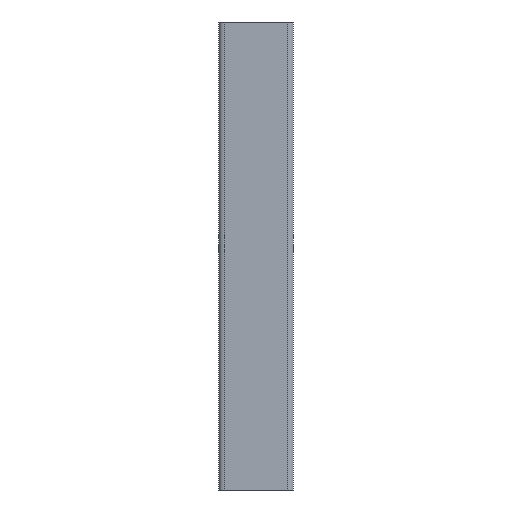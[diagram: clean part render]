
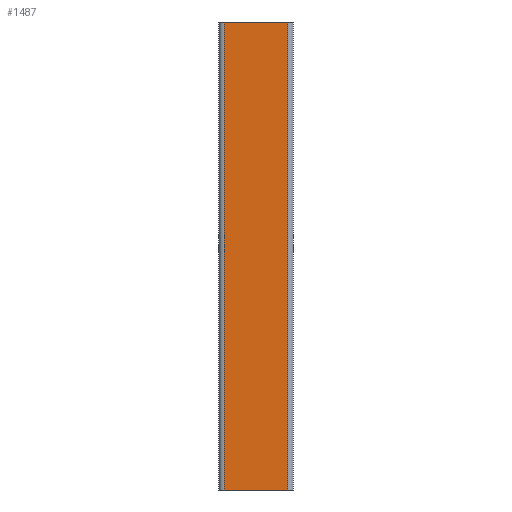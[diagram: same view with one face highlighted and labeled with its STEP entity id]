
A CAD part, left-side view. The second image highlights one B-rep face of the part: STEP entity #1487.
In plain terms, the highlighted planar face has unit normal (-1, 0, 0).
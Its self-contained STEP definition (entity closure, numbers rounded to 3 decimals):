
#10 = CARTESIAN_POINT ( 'NONE',  ( -9.322, 14.394, 200. ) ) ;
#11 = VECTOR ( 'NONE', #717, 1000. ) ;
#54 = DIRECTION ( 'NONE',  ( 0., -1., 0. ) ) ;
#87 = CARTESIAN_POINT ( 'NONE',  ( -9.322, -12.606, 200. ) ) ;
#132 = CARTESIAN_POINT ( 'NONE',  ( -9.322, 14.394, 0. ) ) ;
#220 = EDGE_CURVE ( 'NONE', #1568, #595, #992, .T. ) ;
#262 = CARTESIAN_POINT ( 'NONE',  ( -9.322, 14.394, 200. ) ) ;
#453 = AXIS2_PLACEMENT_3D ( 'NONE', #734, #729, #712 ) ;
#475 = EDGE_CURVE ( 'NONE', #1381, #1502, #778, .T. ) ;
#520 = EDGE_CURVE ( 'NONE', #1568, #1381, #785, .T. ) ;
#560 = ORIENTED_EDGE ( 'NONE', *, *, #1137, .T. ) ;
#563 = CARTESIAN_POINT ( 'NONE',  ( -9.322, 14.394, 0. ) ) ;
#595 = VERTEX_POINT ( 'NONE', #563 ) ;
#653 = CARTESIAN_POINT ( 'NONE',  ( -9.322, -12.606, 0. ) ) ;
#706 = CARTESIAN_POINT ( 'NONE',  ( -9.322, 14.394, 200. ) ) ;
#712 = DIRECTION ( 'NONE',  ( 0., 0., -1. ) ) ;
#717 = DIRECTION ( 'NONE',  ( 0., -1., 0. ) ) ;
#729 = DIRECTION ( 'NONE',  ( 1., 0., 0. ) ) ;
#734 = CARTESIAN_POINT ( 'NONE',  ( -9.322, 14.394, 200. ) ) ;
#778 = LINE ( 'NONE', #809, #791 ) ;
#785 = LINE ( 'NONE', #706, #11 ) ;
#791 = VECTOR ( 'NONE', #821, 1000. ) ;
#806 = PLANE ( 'NONE',  #453 ) ;
#809 = CARTESIAN_POINT ( 'NONE',  ( -9.322, -12.606, 200. ) ) ;
#821 = DIRECTION ( 'NONE',  ( 0., 0., -1. ) ) ;
#843 = LINE ( 'NONE', #132, #849 ) ;
#849 = VECTOR ( 'NONE', #54, 1000. ) ;
#992 = LINE ( 'NONE', #10, #1477 ) ;
#1025 = FACE_OUTER_BOUND ( 'NONE', #1091, .T. ) ;
#1039 = ORIENTED_EDGE ( 'NONE', *, *, #475, .F. ) ;
#1057 = ORIENTED_EDGE ( 'NONE', *, *, #520, .F. ) ;
#1091 = EDGE_LOOP ( 'NONE', ( #560, #1039, #1057, #1150 ) ) ;
#1137 = EDGE_CURVE ( 'NONE', #595, #1502, #843, .T. ) ;
#1150 = ORIENTED_EDGE ( 'NONE', *, *, #220, .T. ) ;
#1381 = VERTEX_POINT ( 'NONE', #87 ) ;
#1477 = VECTOR ( 'NONE', #1565, 1000. ) ;
#1487 = ADVANCED_FACE ( 'NONE', ( #1025 ), #806, .F. ) ;
#1502 = VERTEX_POINT ( 'NONE', #653 ) ;
#1565 = DIRECTION ( 'NONE',  ( 0., 0., -1. ) ) ;
#1568 = VERTEX_POINT ( 'NONE', #262 ) ;
